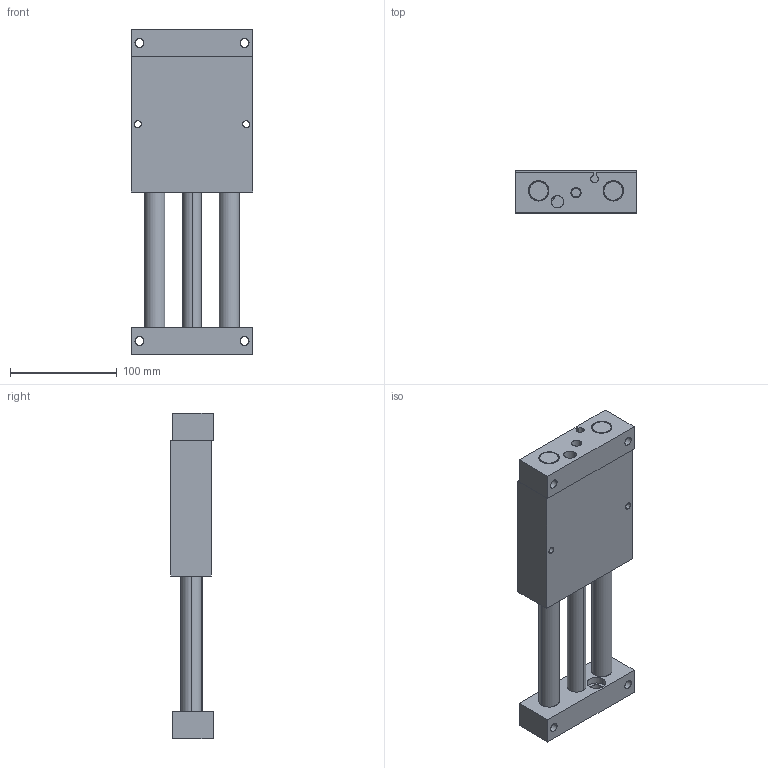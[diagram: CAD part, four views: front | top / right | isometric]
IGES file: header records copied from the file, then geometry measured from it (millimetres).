
Start section: SolidWorks IGES file using analytic representation for surfaces
Global section: file name: C:\Users\jmkuhnes\Pictures\My Transfers\AGSL\AGSL-5\AGSL-5 NO SHOCKS in IN.IGS; native system: SolidWorks 2013; preprocessor: SolidWorks 2013; author: jmkuhnes; date: 141107.105753; units: inch
Bounding box: 114.3 x 39.7 x 304.8 mm (x, y, z)
Surface area: 169777.8 mm2 (no closed solid volume)
Topology: 0 solids, 0 shells, 160 faces, 4028 edges, 4024 vertices
Faces by surface type: revolution 110, bspline 50
